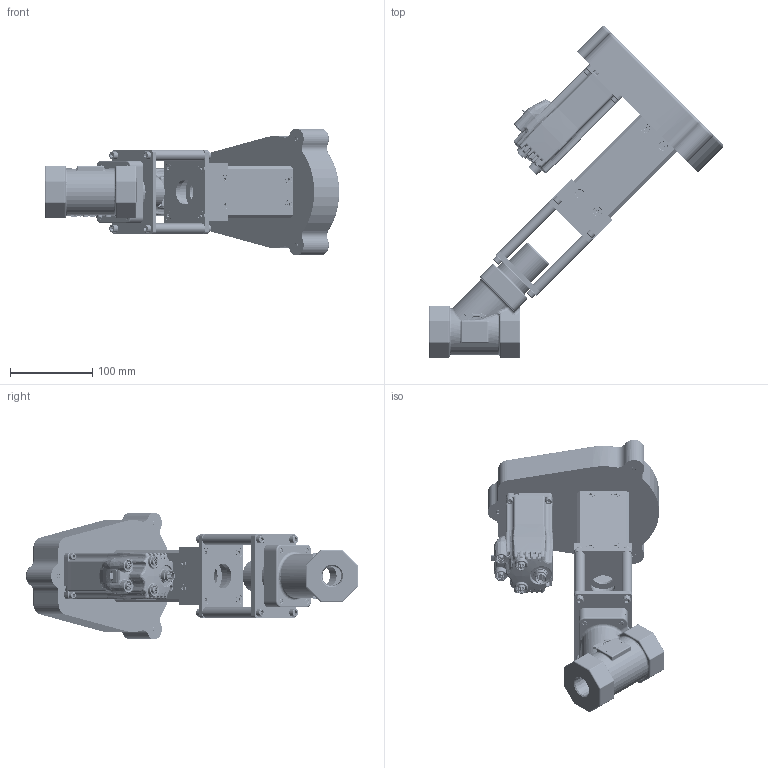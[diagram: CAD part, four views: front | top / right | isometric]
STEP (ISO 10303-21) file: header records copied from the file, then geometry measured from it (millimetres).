
FILE_DESCRIPTION (( 'STEP AP203' ), '1' );
FILE_NAME ('.75 DRAIN VALVE 2W NPT NO SYN -STEP.STEP', '2018-12-12T19:36:08', ( '' ), ( '' ), 'SwSTEP 2.0', 'SolidWorks 2012', '' );
FILE_SCHEMA (( 'CONFIG_CONTROL_DESIGN' ));
Products named in the file (20): .75 DRAIN VALVE 2W NPT NO SYN -STEP; SYN-H001_92185A537; SYN-H012_90517A311; SYN-H013_90517A312; SYN-H003_90585A026; SYN-H005_90585A242; SYN-013BLK; SYN-005BLK; SYN-H009_92185A544; SYN-001BLK; SYN-H011_92185A242; SYN-H010_92891A700; SYN-032; SYN-H002_92185A540; SYN-002BLK; SYN-DV2R; SYN-004BLK; SYN-014R; SYN-DV259-SS; SYN-DV234-SS
Assembly tree (62 placements, depth 2):
  .75 DRAIN VALVE 2W NPT NO SYN -STEP
    SYN-DV234-SS
    SYN-DV259-SS
    SYN-014R  x6
    SYN-004BLK
    SYN-DV2R
    SYN-002BLK
    SYN-H002_92185A540  x12
    SYN-032
    SYN-H010_92891A700  x4
    SYN-H011_92185A242  x4
    SYN-001BLK
    SYN-H009_92185A544  x3
    SYN-005BLK
    SYN-013BLK
    SYN-H005_90585A242  x11
    SYN-H003_90585A026  x7
    SYN-H013_90517A312
    SYN-H012_90517A311
    SYN-H001_92185A537  x4
Bounding box: 357.28 x 402.9 x 154.1 mm (x, y, z)
Volume: 1215926.3 mm3; surface area: 448338 mm2
Topology: 61 solids, 86 shells, 5556 faces, 15270 edges, 9859 vertices
Faces by surface type: cylinder 2702, plane 959, cone 922, bspline 731, torus 165, sphere 77
Entity records: 148231 total; most frequent: CARTESIAN_POINT 77408, ORIENTED_EDGE 14957, DIRECTION 12207, EDGE_CURVE 8207, VERTEX_POINT 5471, AXIS2_PLACEMENT_3D 4681, EDGE_LOOP 3241, FACE_OUTER_BOUND 2884
